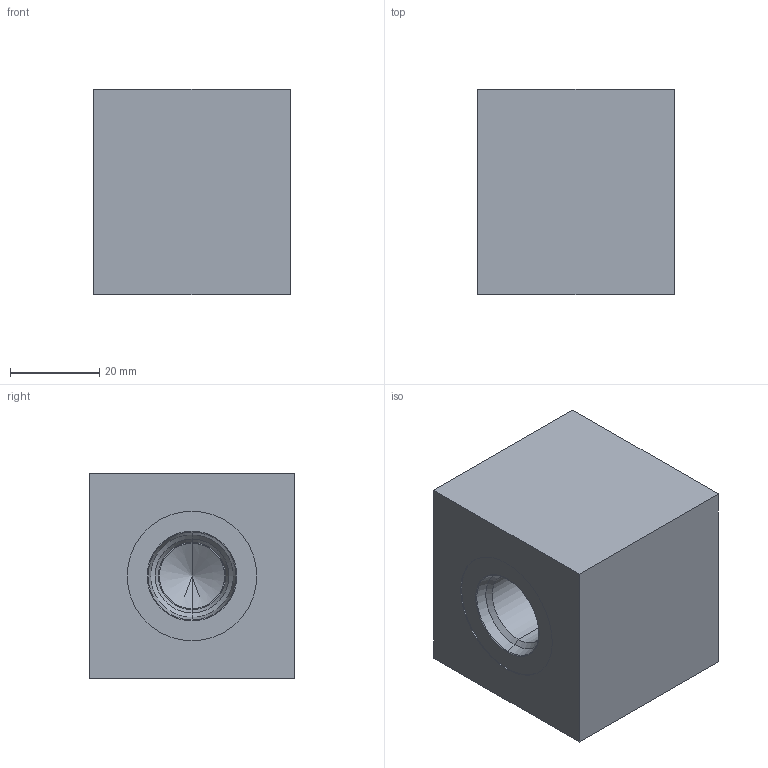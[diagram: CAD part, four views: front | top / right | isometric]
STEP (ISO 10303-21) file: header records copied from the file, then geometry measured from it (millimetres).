
FILE_DESCRIPTION (( 'STEP AP214' ), '1' );
FILE_NAME ('2.13-1038_QZPPM18.STEP', '2022-02-08T14:34:38', ( '' ), ( '' ), 'SwSTEP 2.0', 'SolidWorks 2020', '' );
FILE_SCHEMA (( 'AUTOMOTIVE_DESIGN' ));
Length unit declared in the file: millimetre
Products named in the file (1): 2.13-1038_QZPPM18
Bounding box: 44 x 46 x 46 mm (x, y, z)
Volume: 85889.6 mm3; surface area: 13958.3 mm2
Topology: 1 solids, 1 shells, 28 faces, 58 edges, 33 vertices
Faces by surface type: cylinder 8, cone 8, plane 8, torus 4
Entity records: 780 total; most frequent: DIRECTION 142, CARTESIAN_POINT 118, ORIENTED_EDGE 112, AXIS2_PLACEMENT_3D 57, EDGE_CURVE 56, VERTEX_POINT 33, EDGE_LOOP 31, VECTOR 28
